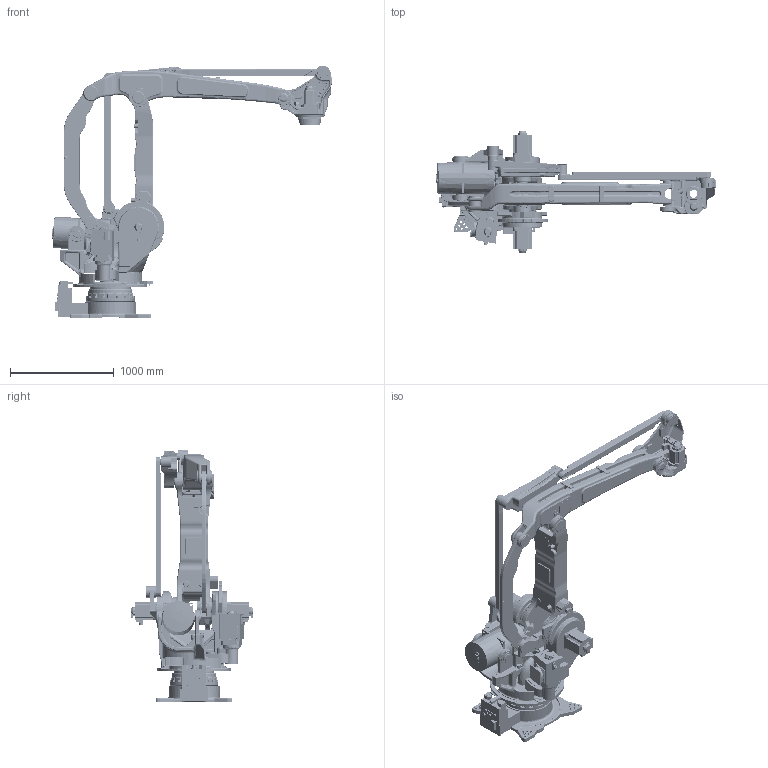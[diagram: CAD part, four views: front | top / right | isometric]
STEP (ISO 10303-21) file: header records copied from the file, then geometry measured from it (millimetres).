
FILE_DESCRIPTION((''),'2;1');
FILE_NAME('ASSY_VIEW_04LXH320-A00_ASM','2020-12-09T',('h2009063'),('YASKAWA ELECTRIC CORPORATION'),'PRO/ENGINEER BY PARAMETRIC TECHNOLOGY CORPORATION, 2015030','PRO/ENGINEER BY PARAMETRIC TECHNOLOGY CORPORATION, 2015030','');
FILE_SCHEMA(('CONFIG_CONTROL_DESIGN'));
Products named in the file (14): BASE_VIEW_04LXH320-A00; S_VIEW_04LXH320-A00; L_VIEW_04LXH320-A00; BALANCER1_VIEW_04LXH320-A00; BALANCER2_VIEW_04LXH320-A00; LINKB_VIEW_04LXH320-A00; LINKA_VIEW_04LXH320-A00; U_VIEW_04LXH320-A00; LINKC_VIEW_04LXH320-A00; LINKD_VIEW_04LXH320-A00; LINKE_VIEW_04LXH320-A00; WRIST_VIEW_04LXH320-A00; T_VIEW_04LXH320-A00; ASSY_VIEW_04LXH320-A00_ASM
Assembly tree (13 placements, depth 2):
  ASSY_VIEW_04LXH320-A00_ASM
    BASE_VIEW_04LXH320-A00
    S_VIEW_04LXH320-A00
    L_VIEW_04LXH320-A00
    BALANCER1_VIEW_04LXH320-A00
    BALANCER2_VIEW_04LXH320-A00
    LINKB_VIEW_04LXH320-A00
    LINKA_VIEW_04LXH320-A00
    U_VIEW_04LXH320-A00
    LINKC_VIEW_04LXH320-A00
    LINKD_VIEW_04LXH320-A00
    LINKE_VIEW_04LXH320-A00
    WRIST_VIEW_04LXH320-A00
    T_VIEW_04LXH320-A00
Bounding box: 2699.41 x 1179.82 x 2437.03 mm (x, y, z)
Volume: 431353761 mm3; surface area: 15661001.1 mm2
Topology: 13 solids, 17 shells, 8100 faces, 21018 edges, 12667 vertices
Faces by surface type: cylinder 2635, plane 2057, bspline 1419, torus 1230, cone 538, sphere 211, extrusion 10
Entity records: 396210 total; most frequent: CARTESIAN_POINT 130687, ORIENTED_EDGE 41052, DIRECTION 37438, PRESENTATION_STYLE_ASSIGNMENT 22492, STYLED_ITEM 21816, CURVE_STYLE 20534, EDGE_CURVE 20528, AXIS2_PLACEMENT_3D 15204
